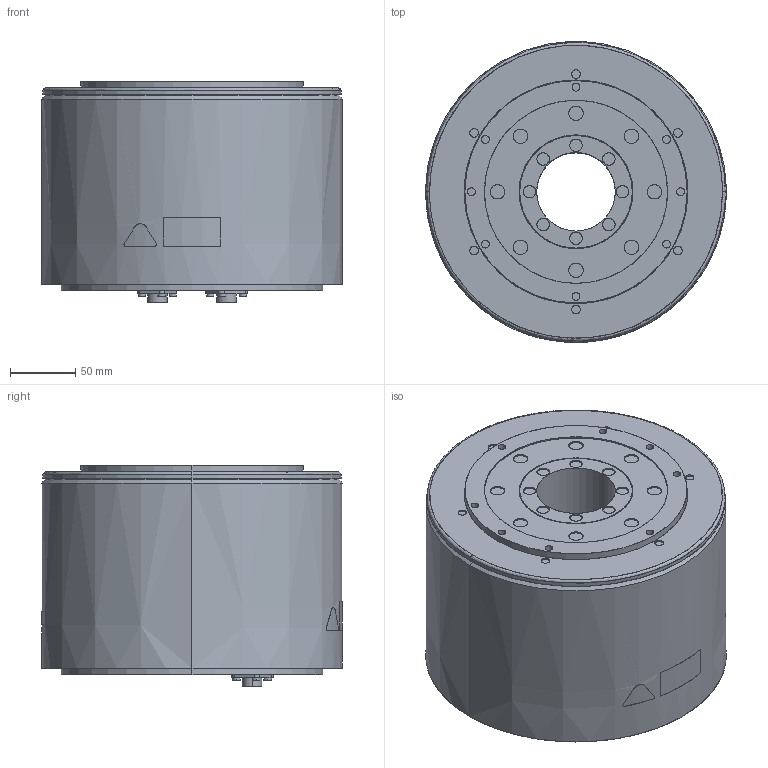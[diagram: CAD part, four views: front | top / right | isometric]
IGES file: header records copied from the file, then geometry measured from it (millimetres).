
Start section: SolidWorks IGES file using analytic representation for surfaces
Bounding box: 230 x 230.2 x 169.1 mm (x, y, z)
Surface area: 230161.7 mm2 (no closed solid volume)
Topology: 0 solids, 0 shells, 336 faces, 6911 edges, 6911 vertices
Faces by surface type: revolution 193, bspline 143
